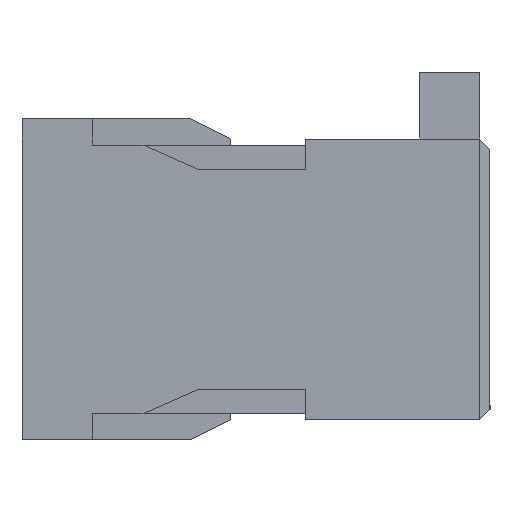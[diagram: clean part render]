
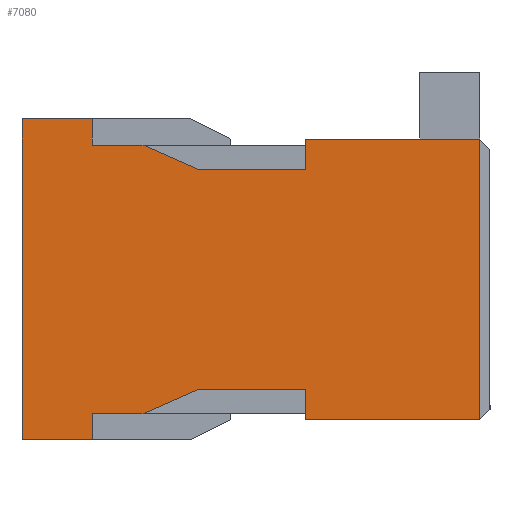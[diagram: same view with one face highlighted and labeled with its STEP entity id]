
A CAD part, left-side view. The second image highlights one B-rep face of the part: STEP entity #7080.
In plain terms, the highlighted planar face has unit normal (-1, 0, 0).
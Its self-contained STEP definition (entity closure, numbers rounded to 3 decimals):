
#5=DIRECTION('',(0.,1.,0.));
#6=VECTOR('',#5,0.76);
#7=CARTESIAN_POINT('',(8.,5.19,-0.39));
#8=LINE('',#7,#6);
#97=DIRECTION('',(0.,1.,0.));
#98=VECTOR('',#97,2.61);
#99=CARTESIAN_POINT('',(8.,0.15,-0.3));
#100=LINE('',#99,#98);
#1005=DIRECTION('',(0.,-1.,0.));
#1006=VECTOR('',#1005,0.76);
#1007=CARTESIAN_POINT('',(8.,5.95,-4.41));
#1008=LINE('',#1007,#1006);
#2101=DIRECTION('',(0.,1.,0.));
#2102=VECTOR('',#2101,1.05);
#2103=CARTESIAN_POINT('',(8.,5.95,0.));
#2104=LINE('',#2103,#2102);
#2181=DIRECTION('',(0.,0.,1.));
#2182=VECTOR('',#2181,0.39);
#2183=CARTESIAN_POINT('',(8.,5.95,-0.39));
#2184=LINE('',#2183,#2182);
#2193=DIRECTION('',(0.,0.,1.));
#2194=VECTOR('',#2193,0.45);
#2195=CARTESIAN_POINT('',(8.,2.76,-4.5));
#2196=LINE('',#2195,#2194);
#2197=DIRECTION('',(0.,1.,0.));
#2198=VECTOR('',#2197,1.62);
#2199=CARTESIAN_POINT('',(8.,2.76,-4.05));
#2200=LINE('',#2199,#2198);
#2201=DIRECTION('',(0.,0.914,-0.406));
#2202=VECTOR('',#2201,0.886);
#2203=CARTESIAN_POINT('',(8.,4.38,-4.05));
#2204=LINE('',#2203,#2202);
#2205=DIRECTION('',(0.,1.,0.));
#2206=VECTOR('',#2205,1.05);
#2207=CARTESIAN_POINT('',(8.,5.95,-4.8));
#2208=LINE('',#2207,#2206);
#2209=DIRECTION('',(0.,0.,1.));
#2210=VECTOR('',#2209,4.8);
#2211=CARTESIAN_POINT('',(8.,7.,-4.8));
#2212=LINE('',#2211,#2210);
#2213=DIRECTION('',(0.,-0.914,-0.406));
#2214=VECTOR('',#2213,0.886);
#2215=CARTESIAN_POINT('',(8.,5.19,-0.39));
#2216=LINE('',#2215,#2214);
#2217=DIRECTION('',(0.,-1.,0.));
#2218=VECTOR('',#2217,1.62);
#2219=CARTESIAN_POINT('',(8.,4.38,
-0.75));
#2220=LINE('',#2219,#2218);
#2221=DIRECTION('',(0.,0.,1.));
#2222=VECTOR('',#2221,0.45);
#2223=CARTESIAN_POINT('',(8.,2.76,
-0.75));
#2224=LINE('',#2223,#2222);
#2225=DIRECTION('',(0.,1.,0.));
#2226=VECTOR('',#2225,2.61);
#2227=CARTESIAN_POINT('',(8.,0.15,
-4.5));
#2228=LINE('',#2227,#2226);
#2261=DIRECTION('',(0.,0.,1.));
#2262=VECTOR('',#2261,0.39);
#2263=CARTESIAN_POINT('',(8.,5.95,-4.8));
#2264=LINE('',#2263,#2262);
#2337=DIRECTION('',(0.,0.,1.));
#2338=VECTOR('',#2337,4.2);
#2339=CARTESIAN_POINT('',(8.,0.15,
-4.5));
#2340=LINE('',#2339,#2338);
#3353=CARTESIAN_POINT('',(8.,5.19,-0.39));
#3354=VERTEX_POINT('',#3353);
#3355=CARTESIAN_POINT('',(8.,5.95,-0.39));
#3356=VERTEX_POINT('',#3355);
#3365=CARTESIAN_POINT('',(8.,7.,-4.8));
#3366=CARTESIAN_POINT('',(8.,7.,0.));
#3367=VERTEX_POINT('',#3365);
#3368=VERTEX_POINT('',#3366);
#3457=CARTESIAN_POINT('',(8.,5.95,0.));
#3458=VERTEX_POINT('',#3457);
#3463=CARTESIAN_POINT('',(8.,2.76,-4.5));
#3464=CARTESIAN_POINT('',(8.,2.76,-4.05));
#3465=VERTEX_POINT('',#3463);
#3466=VERTEX_POINT('',#3464);
#3467=CARTESIAN_POINT('',(8.,4.38,-4.05));
#3468=VERTEX_POINT('',#3467);
#3469=CARTESIAN_POINT('',(8.,5.19,-4.41));
#3470=VERTEX_POINT('',#3469);
#3471=CARTESIAN_POINT('',(8.,5.95,-4.41));
#3472=VERTEX_POINT('',#3471);
#3473=CARTESIAN_POINT('',(8.,5.95,-4.8));
#3474=VERTEX_POINT('',#3473);
#3475=CARTESIAN_POINT('',(8.,4.38,
-0.75));
#3476=VERTEX_POINT('',#3475);
#3477=CARTESIAN_POINT('',(8.,2.76,
-0.75));
#3478=VERTEX_POINT('',#3477);
#3479=CARTESIAN_POINT('',(8.,2.76,
-0.3));
#3480=VERTEX_POINT('',#3479);
#3481=CARTESIAN_POINT('',(8.,0.15,
-0.3));
#3482=VERTEX_POINT('',#3481);
#3483=CARTESIAN_POINT('',(8.,0.15,
-4.5));
#3484=VERTEX_POINT('',#3483);
#7051=CARTESIAN_POINT('',(8.,3.575,-2.4));
#7052=DIRECTION('',(1.,0.,0.));
#7053=DIRECTION('',(0.,0.,-1.));
#7054=AXIS2_PLACEMENT_3D('',#7051,#7052,#7053);
#7055=PLANE('',#7054);
#7056=ORIENTED_EDGE('',*,*,#5261,.T.);
#7058=ORIENTED_EDGE('',*,*,#7057,.T.);
#7060=ORIENTED_EDGE('',*,*,#7059,.T.);
#7061=ORIENTED_EDGE('',*,*,#5288,.F.);
#7063=ORIENTED_EDGE('',*,*,#7062,.F.);
#7064=ORIENTED_EDGE('',*,*,#5350,.T.);
#7065=ORIENTED_EDGE('',*,*,#5397,.T.);
#7066=ORIENTED_EDGE('',*,*,#6948,.F.);
#7067=ORIENTED_EDGE('',*,*,#7044,.F.);
#7068=ORIENTED_EDGE('',*,*,#3632,.F.);
#7070=ORIENTED_EDGE('',*,*,#7069,.T.);
#7072=ORIENTED_EDGE('',*,*,#7071,.T.);
#7073=ORIENTED_EDGE('',*,*,#3684,.T.);
#7074=ORIENTED_EDGE('',*,*,#3707,.F.);
#7076=ORIENTED_EDGE('',*,*,#7075,.F.);
#7077=ORIENTED_EDGE('',*,*,#5242,.T.);
#7078=EDGE_LOOP('',(#7056,#7058,#7060,#7061,#7063,#7064,#7065,#7066,#7067,#7068,
#7070,#7072,#7073,#7074,#7076,#7077));
#7079=FACE_OUTER_BOUND('',#7078,.F.);
#7080=ADVANCED_FACE('',(#7079),#7055,.F.);
#3632=EDGE_CURVE('',#3354,#3356,#8,.T.);
#3684=EDGE_CURVE('',#3478,#3480,#2224,.T.);
#3707=EDGE_CURVE('',#3482,#3480,#100,.T.);
#5242=EDGE_CURVE('',#3484,#3465,#2228,.T.);
#5261=EDGE_CURVE('',#3465,#3466,#2196,.T.);
#5288=EDGE_CURVE('',#3472,#3470,#1008,.T.);
#5350=EDGE_CURVE('',#3474,#3367,#2208,.T.);
#5397=EDGE_CURVE('',#3367,#3368,#2212,.T.);
#6948=EDGE_CURVE('',#3458,#3368,#2104,.T.);
#7044=EDGE_CURVE('',#3356,#3458,#2184,.T.);
#7057=EDGE_CURVE('',#3466,#3468,#2200,.T.);
#7059=EDGE_CURVE('',#3468,#3470,#2204,.T.);
#7062=EDGE_CURVE('',#3474,#3472,#2264,.T.);
#7069=EDGE_CURVE('',#3354,#3476,#2216,.T.);
#7071=EDGE_CURVE('',#3476,#3478,#2220,.T.);
#7075=EDGE_CURVE('',#3484,#3482,#2340,.T.);
